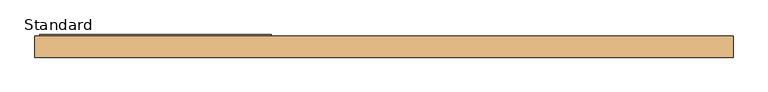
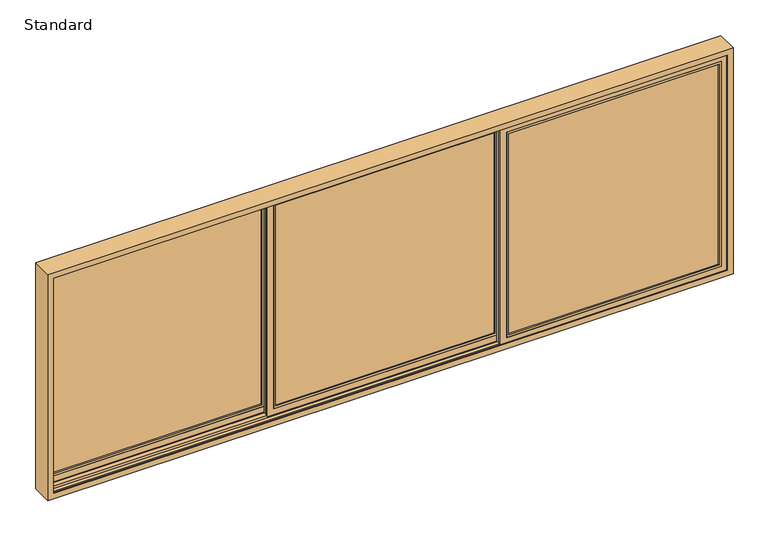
"""IFC4 building model written with IfcOpenShell, lengths in millimetres: door geometry, SMARTS_Visoglide Plus : Standard."""

from ifc_helpers import new_model, si_unit, frame, origin, place, context, project, spatial, polyline, outline, extrude, faceted_brep, source, transform, mapped, element, save


def standard_dc2410ad(model_context):
    return source(origin(), model_context, "Body", "SolidModel", [
        extrude(outline(polyline([(2892.5, -67.0), (1024.8333333, -67.0), (1024.8333333, -63.0), (2892.5, -63.0), (2892.5, -67.0)])), frame((0.0, 0.0, 907.5), z_axis=(0.0, 0.0, 1.0), x_axis=(1.0, 0.0, 0.0)), (0.0, 0.0, 1.0), 1885.0),
        extrude(outline(polyline([(2892.5, -47.0), (1024.8333333, -47.0), (1024.8333333, -43.0), (2892.5, -43.0), (2892.5, -47.0)])), frame((0.0, 0.0, 907.5), z_axis=(0.0, 0.0, 1.0), x_axis=(1.0, 0.0, 0.0)), (0.0, 0.0, 1.0), 1885.0),
        extrude(outline(polyline([(2792.5, 1024.8333333), (907.5, 1024.8333333), (907.5, 2892.5), (2792.5, 2892.5), (2792.5, 1024.8333333)]), holes=[polyline([(2782.5, 2882.5), (917.5, 2882.5), (917.5, 1034.8333333), (2782.5, 1034.8333333), (2782.5, 2882.5)])]), frame((0.0, -63.0, 0.0), z_axis=(0.0, 1.0, 0.0), x_axis=(0.0, 0.0, 1.0)), (0.0, 0.0, 1.0), 16.0),
        extrude(outline(polyline([(2797.5, 2897.5), (2797.5, 1019.8333333), (902.5, 1019.8333333), (902.5, 2897.5), (2797.5, 2897.5)]), holes=[polyline([(922.5, 2877.5), (922.5, 1039.8333333), (2777.5, 1039.8333333), (2777.5, 2877.5), (922.5, 2877.5)])]), frame((0.0, -86.0, 0.0), z_axis=(0.0, 1.0, 0.0), x_axis=(0.0, 0.0, 1.0)), (0.0, 0.0, 1.0), 11.9897777),
        extrude(outline(polyline([(2851.5, 2951.5), (2851.5, 965.8333333), (848.5, 965.8333333), (848.5, 2951.5), (2851.5, 2951.5)]), holes=[polyline([(902.5, 2897.5), (902.5, 1019.8333333), (2797.5, 1019.8333333), (2797.5, 2897.5), (902.5, 2897.5)])]), frame((0.0, -86.0, 0.0), z_axis=(0.0, 1.0, 0.0), x_axis=(0.0, 0.0, 1.0)), (0.0, 0.0, 1.0), 24.0),
        faceted_brep([(2877.5, -39.0, 2777.5), (2877.5, -35.0, 2777.5), (2877.5, -35.0, 922.5), (2877.5, -39.0, 922.5), (2900.5, -62.0, 2800.5), (2900.5, -39.0, 2800.5), (2900.5, -39.0, 899.5), (2900.5, -62.0, 899.5), (2951.5, -35.0, 2851.5), (2951.5, -62.0, 2851.5), (2951.5, -62.0, 848.5), (2951.5, -35.0, 848.5), (1039.8333333, -35.0, 922.5), (1039.8333333, -39.0, 922.5), (1016.8333333, -39.0, 899.5), (1016.8333333, -62.0, 899.5), (965.8333333, -62.0, 848.5), (965.8333333, -35.0, 848.5), (1039.8333333, -35.0, 2777.5), (1039.8333333, -39.0, 2777.5), (1016.8333333, -39.0, 2800.5), (1016.8333333, -62.0, 2800.5), (965.8333333, -62.0, 2851.5), (965.8333333, -35.0, 2851.5)], [[[0, 1, 2, 3]], [[4, 5, 6, 7]], [[8, 9, 10, 11]], [[3, 2, 12, 13]], [[7, 6, 14, 15]], [[11, 10, 16, 17]], [[13, 12, 18, 19]], [[15, 14, 20, 21]], [[17, 16, 22, 23]], [[11, 17, 23, 8], [1, 18, 12, 2]], [[19, 18, 1, 0]], [[5, 20, 14, 6], [3, 13, 19, 0]], [[21, 20, 5, 4]], [[9, 22, 16, 10], [7, 15, 21, 4]], [[23, 22, 9, 8]]]),
        extrude(outline(polyline([(971.8333333, 0.0), (-971.8333333, 0.0), (-971.8333333, 4.0), (971.8333333, 4.0), (971.8333333, 0.0)])), frame((0.0, 0.0, 907.5), z_axis=(0.0, 0.0, 1.0), x_axis=(1.0, 0.0, 0.0)), (0.0, 0.0, 1.0), 1885.0),
        extrude(outline(polyline([(971.8333333, 20.0), (-971.8333333, 20.0), (-971.8333333, 24.0), (971.8333333, 24.0), (971.8333333, 20.0)])), frame((0.0, 0.0, 907.5), z_axis=(0.0, 0.0, 1.0), x_axis=(1.0, 0.0, 0.0)), (0.0, 0.0, 1.0), 1885.0),
        extrude(outline(polyline([(2792.5, -971.8333333), (907.5, -971.8333333), (907.5, 971.8333333), (2792.5, 971.8333333), (2792.5, -971.8333333)]), holes=[polyline([(2782.5, 961.8333333), (917.5, 961.8333333), (917.5, -961.8333333), (2782.5, -961.8333333), (2782.5, 961.8333333)])]), frame((0.0, 4.0, 0.0), z_axis=(0.0, 1.0, 0.0), x_axis=(0.0, 0.0, 1.0)), (0.0, 0.0, 1.0), 16.0),
        extrude(outline(polyline([(2797.5, 976.8333333), (2797.5, -976.8333333), (902.5, -976.8333333), (902.5, 976.8333333), (2797.5, 976.8333333)]), holes=[polyline([(922.5, 956.8333333), (922.5, -956.8333333), (2777.5, -956.8333333), (2777.5, 956.8333333), (922.5, 956.8333333)])]), frame((0.0, -19.0, 0.0), z_axis=(0.0, 1.0, 0.0), x_axis=(0.0, 0.0, 1.0)), (0.0, 0.0, 1.0), 11.9897777),
        extrude(outline(polyline([(2851.5, 1030.8333333), (2851.5, -1030.8333333), (848.5, -1030.8333333), (848.5, 1030.8333333), (2851.5, 1030.8333333)]), holes=[polyline([(902.5, 976.8333333), (902.5, -976.8333333), (2797.5, -976.8333333), (2797.5, 976.8333333), (902.5, 976.8333333)])]), frame((0.0, -19.0, 0.0), z_axis=(0.0, 1.0, 0.0), x_axis=(0.0, 0.0, 1.0)), (0.0, 0.0, 1.0), 24.0),
        faceted_brep([(956.8333333, 28.0, 2777.5), (956.8333333, 32.0, 2777.5), (956.8333333, 32.0, 922.5), (956.8333333, 28.0, 922.5), (979.8333333, 5.0, 2800.5), (979.8333333, 28.0, 2800.5), (979.8333333, 28.0, 899.5), (979.8333333, 5.0, 899.5), (1030.8333333, 32.0, 2851.5), (1030.8333333, 5.0, 2851.5), (1030.8333333, 5.0, 848.5), (1030.8333333, 32.0, 848.5), (-956.8333333, 32.0, 922.5), (-956.8333333, 28.0, 922.5), (-979.8333333, 28.0, 899.5), (-979.8333333, 5.0, 899.5), (-1030.8333333, 5.0, 848.5), (-1030.8333333, 32.0, 848.5), (-956.8333333, 32.0, 2777.5), (-956.8333333, 28.0, 2777.5), (-979.8333333, 28.0, 2800.5), (-979.8333333, 5.0, 2800.5), (-1030.8333333, 5.0, 2851.5), (-1030.8333333, 32.0, 2851.5)], [[[0, 1, 2, 3]], [[4, 5, 6, 7]], [[8, 9, 10, 11]], [[3, 2, 12, 13]], [[7, 6, 14, 15]], [[11, 10, 16, 17]], [[13, 12, 18, 19]], [[15, 14, 20, 21]], [[17, 16, 22, 23]], [[11, 17, 23, 8], [1, 18, 12, 2]], [[19, 18, 1, 0]], [[5, 20, 14, 6], [3, 13, 19, 0]], [[21, 20, 5, 4]], [[9, 22, 16, 10], [7, 15, 21, 4]], [[23, 22, 9, 8]]]),
        extrude(outline(polyline([(-1024.8333333, 67.0), (-2892.5, 67.0), (-2892.5, 71.0), (-1024.8333333, 71.0), (-1024.8333333, 67.0)])), frame((0.0, 0.0, 907.5), z_axis=(0.0, 0.0, 1.0), x_axis=(1.0, 0.0, 0.0)), (0.0, 0.0, 1.0), 1885.0),
        extrude(outline(polyline([(-1024.8333333, 87.0), (-2892.5, 87.0), (-2892.5, 91.0), (-1024.8333333, 91.0), (-1024.8333333, 87.0)])), frame((0.0, 0.0, 907.5), z_axis=(0.0, 0.0, 1.0), x_axis=(1.0, 0.0, 0.0)), (0.0, 0.0, 1.0), 1885.0),
        extrude(outline(polyline([(2792.5, -2892.5), (907.5, -2892.5), (907.5, -1024.8333333), (2792.5, -1024.8333333), (2792.5, -2892.5)]), holes=[polyline([(2782.5, -1034.8333333), (917.5, -1034.8333333), (917.5, -2882.5), (2782.5, -2882.5), (2782.5, -1034.8333333)])]), frame((0.0, 71.0, 0.0), z_axis=(0.0, 1.0, 0.0), x_axis=(0.0, 0.0, 1.0)), (0.0, 0.0, 1.0), 16.0),
        extrude(outline(polyline([(2797.5, -1019.8333333), (2797.5, -2897.5), (902.5, -2897.5), (902.5, -1019.8333333), (2797.5, -1019.8333333)]), holes=[polyline([(922.5, -1039.8333333), (922.5, -2877.5), (2777.5, -2877.5), (2777.5, -1039.8333333), (922.5, -1039.8333333)])]), frame((0.0, 48.0, 0.0), z_axis=(0.0, 1.0, 0.0), x_axis=(0.0, 0.0, 1.0)), (0.0, 0.0, 1.0), 11.9897777),
        extrude(outline(polyline([(2851.5, -965.8333333), (2851.5, -2951.5), (848.5, -2951.5), (848.5, -965.8333333), (2851.5, -965.8333333)]), holes=[polyline([(902.5, -1019.8333333), (902.5, -2897.5), (2797.5, -2897.5), (2797.5, -1019.8333333), (902.5, -1019.8333333)])]), frame((0.0, 48.0, 0.0), z_axis=(0.0, 1.0, 0.0), x_axis=(0.0, 0.0, 1.0)), (0.0, 0.0, 1.0), 24.0),
        faceted_brep([(-1039.8333333, 95.0, 2777.5), (-1039.8333333, 99.0, 2777.5), (-1039.8333333, 99.0, 922.5), (-1039.8333333, 95.0, 922.5), (-1016.8333333, 72.0, 2800.5), (-1016.8333333, 95.0, 2800.5), (-1016.8333333, 95.0, 899.5), (-1016.8333333, 72.0, 899.5), (-965.8333333, 99.0, 2851.5), (-965.8333333, 72.0, 2851.5), (-965.8333333, 72.0, 848.5), (-965.8333333, 99.0, 848.5), (-2877.5, 99.0, 922.5), (-2877.5, 95.0, 922.5), (-2900.5, 95.0, 899.5), (-2900.5, 72.0, 899.5), (-2951.5, 72.0, 848.5), (-2951.5, 99.0, 848.5), (-2877.5, 99.0, 2777.5), (-2877.5, 95.0, 2777.5), (-2900.5, 95.0, 2800.5), (-2900.5, 72.0, 2800.5), (-2951.5, 72.0, 2851.5), (-2951.5, 99.0, 2851.5)], [[[0, 1, 2, 3]], [[4, 5, 6, 7]], [[8, 9, 10, 11]], [[3, 2, 12, 13]], [[7, 6, 14, 15]], [[11, 10, 16, 17]], [[13, 12, 18, 19]], [[15, 14, 20, 21]], [[17, 16, 22, 23]], [[11, 17, 23, 8], [1, 18, 12, 2]], [[19, 18, 1, 0]], [[5, 20, 14, 6], [3, 13, 19, 0]], [[21, 20, 5, 4]], [[9, 22, 16, 10], [7, 15, 21, 4]], [[23, 22, 9, 8]]]),
        faceted_brep([(2995.0, -95.0, 2895.0), (2995.0, 89.39785, 2895.0), (-2995.0, 89.39785, 2895.0), (-2995.0, -95.0, 2895.0), (2943.1999999, -91.0, 2843.1999999), (2943.1999999, -95.0, 2843.1999999), (-2943.1999999, -95.0, 2843.1999999), (-2943.1999999, -91.0, 2843.1999999), (2969.1999999, -76.3, 2869.1999999), (2969.1999999, -91.0, 2869.1999999), (-2969.1999999, -91.0, 2869.1999999), (-2969.1999999, -76.3, 2869.1999999), (2943.1999999, -43.7842251, 2843.1999999), (2943.1999999, -76.3, 2843.1999999), (-2943.1999999, -76.3, 2843.1999999), (-2943.1999999, -43.7842251, 2843.1999999), (2969.1999999, -9.7842251, 2869.1999999), (2969.1999999, -43.7842251, 2869.1999999), (-2969.1999999, -43.7842251, 2869.1999999), (-2969.1999999, -9.7842251, 2869.1999999), (2943.1999999, 22.7989407, 2843.1999999), (2943.1999999, -9.7842251, 2843.1999999), (-2943.1999999, -9.7842251, 2843.1999999), (-2943.1999999, 22.7989407, 2843.1999999), (2969.2, 56.7989407, 2869.2), (2969.2, 22.7989407, 2869.2), (-2969.2, 22.7989407, 2869.2), (-2969.2, 56.7989407, 2869.2), (2943.0, 89.39785, 2843.0), (2943.0, 56.7989407, 2843.0), (-2943.0, 56.7989407, 2843.0), (-2943.0, 89.39785, 2843.0), (-2995.0, 89.39785, 805.0), (-2995.0, -95.0, 805.0), (-2943.1999999, -95.0, 856.8000001), (-2943.1999999, -91.0, 856.8000001), (-2969.1999999, -91.0, 830.8000001), (-2969.1999999, -76.3, 830.8000001), (-2943.1999999, -76.3, 856.8000001), (-2943.1999999, -43.7842251, 856.8000001), (-2969.1999999, -43.7842251, 830.8000001), (-2969.1999999, -9.7842251, 830.8000001), (-2943.1999999, -9.7842251, 856.8000001), (-2943.1999999, 22.7989407, 856.8000001), (-2969.2, 22.7989407, 830.8), (-2969.2, 56.7989407, 830.8), (-2943.0, 56.7989407, 857.0), (-2943.0, 89.39785, 857.0), (2995.0, 89.39785, 805.0), (2995.0, -95.0, 805.0), (2943.1999999, -95.0, 856.8000001), (2943.1999999, -91.0, 856.8000001), (2969.1999999, -91.0, 830.8000001), (2969.1999999, -76.3, 830.8000001), (2943.1999999, -76.3, 856.8000001), (2943.1999999, -43.7842251, 856.8000001), (2969.1999999, -43.7842251, 830.8000001), (2969.1999999, -9.7842251, 830.8000001), (2943.1999999, -9.7842251, 856.8000001), (2943.1999999, 22.7989407, 856.8000001), (2969.2, 22.7989407, 830.8), (2969.2, 56.7989407, 830.8), (2943.0, 56.7989407, 857.0), (2943.0, 89.39785, 857.0)], [[[0, 1, 2, 3]], [[4, 5, 6, 7]], [[8, 9, 10, 11]], [[12, 13, 14, 15]], [[16, 17, 18, 19]], [[20, 21, 22, 23]], [[24, 25, 26, 27]], [[28, 29, 30, 31]], [[3, 2, 32, 33]], [[7, 6, 34, 35]], [[11, 10, 36, 37]], [[15, 14, 38, 39]], [[19, 18, 40, 41]], [[23, 22, 42, 43]], [[27, 26, 44, 45]], [[31, 30, 46, 47]], [[33, 32, 48, 49]], [[35, 34, 50, 51]], [[37, 36, 52, 53]], [[39, 38, 54, 55]], [[41, 40, 56, 57]], [[43, 42, 58, 59]], [[45, 44, 60, 61]], [[47, 46, 62, 63]], [[1, 48, 32, 2], [31, 47, 63, 28]], [[49, 48, 1, 0]], [[3, 33, 49, 0], [5, 50, 34, 6]], [[51, 50, 5, 4]], [[9, 52, 36, 10], [7, 35, 51, 4]], [[53, 52, 9, 8]], [[11, 37, 53, 8], [13, 54, 38, 14]], [[55, 54, 13, 12]], [[17, 56, 40, 18], [15, 39, 55, 12]], [[57, 56, 17, 16]], [[19, 41, 57, 16], [21, 58, 42, 22]], [[59, 58, 21, 20]], [[25, 60, 44, 26], [23, 43, 59, 20]], [[61, 60, 25, 24]], [[27, 45, 61, 24], [29, 62, 46, 30]], [[63, 62, 29, 28]]]),
    ])


if __name__ == "__main__":
    model = new_model("IFC4")
    model_context = context("Model", 3, world=origin())
    ifc_project = project(units=[si_unit("LENGTHUNIT", "METRE", prefix="MILLI")], contexts=[model_context])
    site = spatial("IfcSite", under=ifc_project)
    building = spatial("IfcBuilding", under=site)
    placement = place(None, origin())
    standard_shape = standard_dc2410ad(model_context)
    element("IfcDoor", 1, ObjectType="SMARTS_Visoglide Plus : Standard", at=placement, inside=building, context=model_context, shape_type="MappedRepresentation", body=[
        mapped(standard_shape, transform((0.0, 0.0, 0.0), x_axis=(1.0, 0.0, 0.0), y_axis=(0.0, 1.0, 0.0), z_axis=(0.0, 0.0, 1.0))),
    ])
    save(model, "model.ifc")
